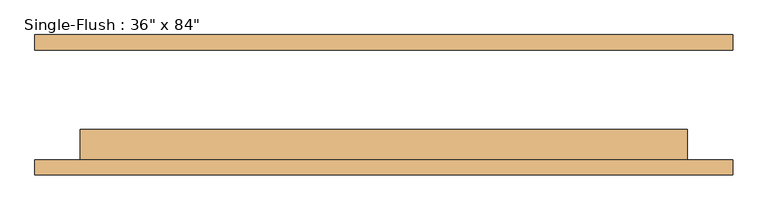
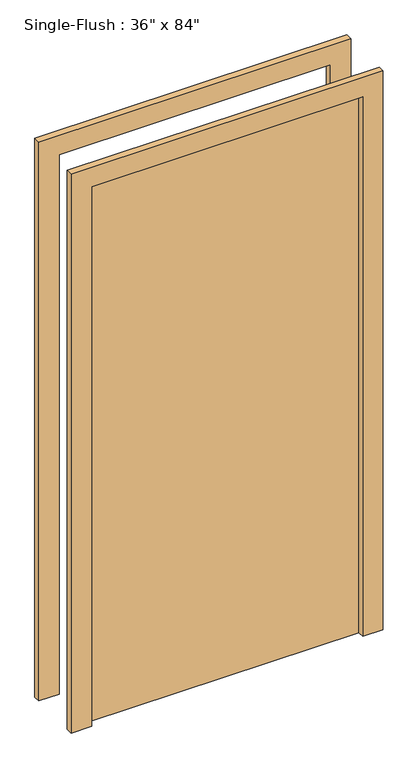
"""IFC4 building model written with IfcOpenShell, lengths in millimetres: door geometry."""

from ifc_helpers import new_model, si_unit, frame, origin, origin_with_axes, place, context, project, spatial, polyline, outline, extrude, source, transform, mapped, element, save


def door_9fd2ff77(model_context):
    return source(origin(), model_context, "Body", "SweptSolid", [
        extrude(outline(polyline([(2209.8, -584.2), (0.0, -584.2), (0.0, -508.0), (2133.6, -508.0), (2133.6, 508.0), (0.0, 508.0), (0.0, 584.2), (2209.8, 584.2), (2209.8, -584.2)])), frame((0.0, -117.475, 0.0), z_axis=(0.0, 1.0, 0.0), x_axis=(0.0, 0.0, 1.0)), (0.0, 0.0, 1.0), 25.4),
        extrude(outline(polyline([(2209.8, 584.2), (2209.8, -584.2), (0.0, -584.2), (0.0, -508.0), (2133.6, -508.0), (2133.6, 508.0), (0.0, 508.0), (0.0, 584.2), (2209.8, 584.2)])), frame((0.0, 92.075, 0.0), z_axis=(0.0, 1.0, 0.0), x_axis=(0.0, 0.0, 1.0)), (0.0, 0.0, 1.0), 25.4),
        extrude(outline(polyline([(508.0, -41.275), (508.0, -92.075), (-508.0, -92.075), (-508.0, -41.275), (508.0, -41.275)])), origin_with_axes(), (0.0, 0.0, 1.0), 2133.6),
    ])


if __name__ == "__main__":
    model = new_model("IFC4")
    model_context = context("Model", 3, world=origin())
    ifc_project = project(units=[si_unit("LENGTHUNIT", "METRE", prefix="MILLI")], contexts=[model_context])
    site = spatial("IfcSite", under=ifc_project)
    building = spatial("IfcBuilding", under=site)
    placement = place(None, origin())
    door_shape = door_9fd2ff77(model_context)
    element("IfcDoor", 1, ObjectType="Single-Flush : 36\" x 84\"", at=placement, inside=building, context=model_context, shape_type="MappedRepresentation", body=[
        mapped(door_shape, transform((0.0, 0.0, 0.0), x_axis=(1.0, 0.0, 0.0), y_axis=(0.0, 1.0, 0.0), z_axis=(0.0, 0.0, 1.0))),
    ])
    save(model, "model.ifc")
